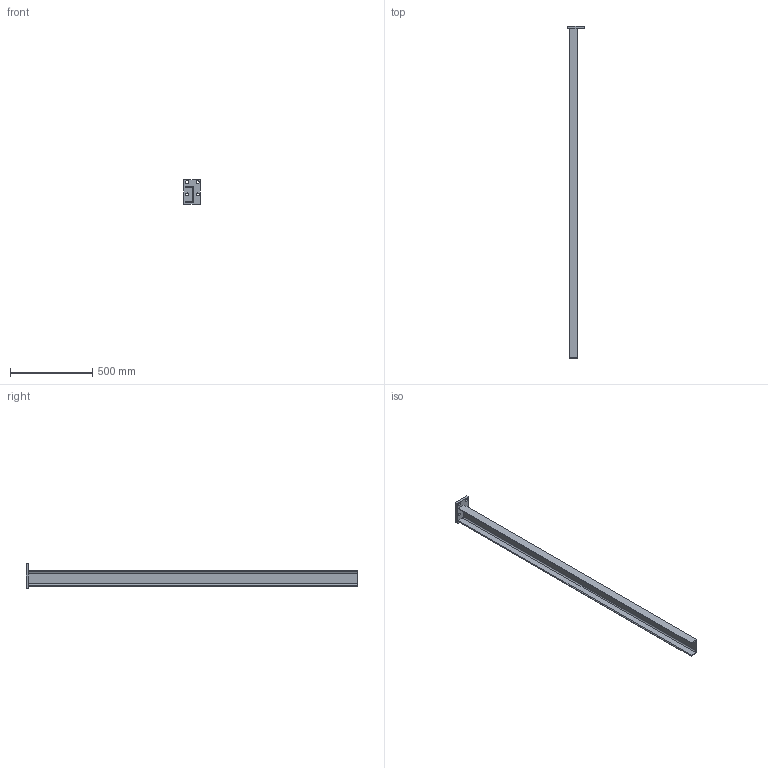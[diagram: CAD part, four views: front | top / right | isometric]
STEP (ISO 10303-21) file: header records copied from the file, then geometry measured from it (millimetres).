
FILE_DESCRIPTION(/* description */ (''),/* implementation_level */ '2;1');
FILE_NAME(/* name */ 'Channel-SS-1005057.5.step',/* time_stamp */ '2023-10-14T18:41:05+09:00',/* author */ (''),/* organization */ (''),/* preprocessor_version */ 'ST-DEVELOPER v20',/* originating_system */ 'Autodesk Translation Framework v12.14.0.127',/* authorisation */ '');
FILE_SCHEMA (('AUTOMOTIVE_DESIGN { 1 0 10303 214 3 1 1 }'));
Length unit declared in the file: millimetre
Products named in the file (2): Channel-100; Channel-steel_100x50x5x7.5
Assembly tree (1 placements, depth 2):
  Channel-100
    Channel-steel_100x50x5x7.5
Bounding box: 100 x 2016 x 150 mm (x, y, z)
Volume: 2607230.7 mm3; surface area: 790148.1 mm2
Topology: 2 solids, 2 shells, 24 faces, 60 edges, 40 vertices
Faces by surface type: plane 16, cylinder 8
Full cylindrical faces by diameter (mm): 18 x4
Entity records: 797 total; most frequent: DIRECTION 130, CARTESIAN_POINT 127, ORIENTED_EDGE 120, EDGE_CURVE 60, LINE 44, VECTOR 44, AXIS2_PLACEMENT_3D 43, VERTEX_POINT 40
